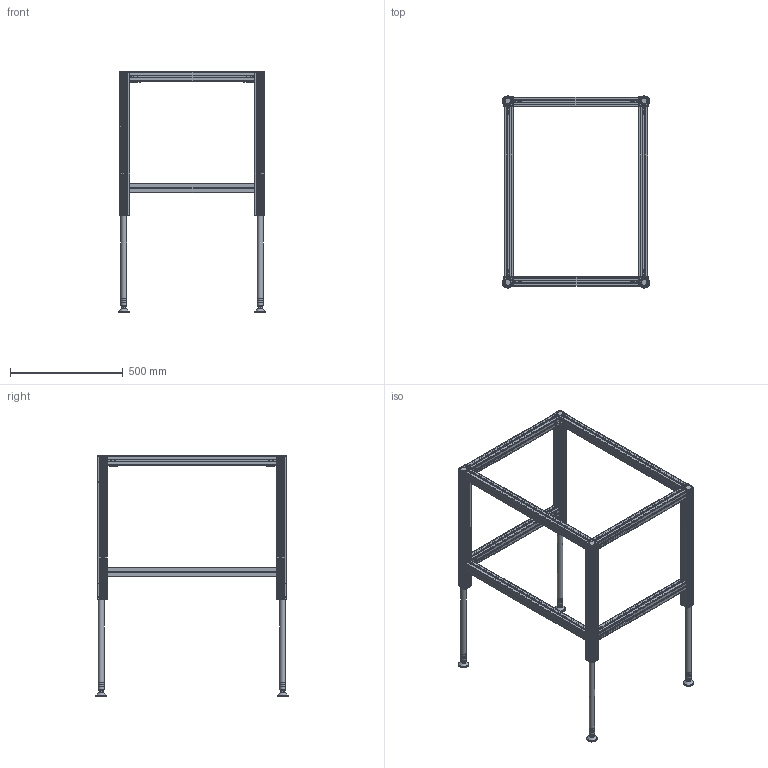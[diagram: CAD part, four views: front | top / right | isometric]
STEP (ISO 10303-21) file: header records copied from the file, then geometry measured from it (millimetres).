
FILE_DESCRIPTION(/* description */ ('Unknown'),/* implementation_level */ '2;1');
FILE_NAME(/* name */ '108.00404_ausgefahren',/* time_stamp */ '2019-08-07T13:55:29+02:00',/* author */ ('Unknown'),/* organization */ ('Unknown'),/* preprocessor_version */ 'ST-DEVELOPER v16.7',/* originating_system */ 'DEX',/* authorisation */ $);
FILE_SCHEMA (('AUTOMOTIVE_DESIGN {1 0 10303 214 3 1 1}'));
Length unit declared in the file: millimetre
Products named in the file (34): 108.00404; 115.00101; 119.00191; 142.00210; 115.00100; 119.00190; 306.00414_oa_0; 142.00014; 119.00224; 122.00005; 142.00020; 113.00002_70mm; 124.00125; 128.00040; 106.00404_oa_1; 107.00404_oa_2; 115.00007_oa_3; 123.00104; 125.00051; 306.00414_oa_4; 106.00404_oa_5; 107.00404_oa_6; 115.00007_oa_7; 306.00414_oa_8; 106.00404_oa_9; 107.00404_oa_10; 115.00007_oa_11; 306.00414_oa_12; 106.00404_oa_13; 107.00404_oa_14; 115.00007_oa_15; 113.00006; 113.00052_ohne Mutter; Mutter M10
Assembly tree (87 placements, depth 5):
  108.00404
    115.00101  x3
      119.00191
      142.00210
    115.00100  x4
      119.00190
      142.00210
    306.00414_oa_0
      142.00014  x2
      119.00224
      122.00005
      142.00020  x4
      113.00002_70mm
      124.00125
      128.00040
      106.00404_oa_1
        107.00404_oa_2
          115.00007_oa_3
        123.00104
        125.00051
    306.00414_oa_4
      142.00014  x2
      119.00224
      122.00005
      142.00020  x4
      113.00002_70mm
      124.00125
      128.00040
      106.00404_oa_5
        107.00404_oa_6
          115.00007_oa_7
        123.00104
        125.00051
    306.00414_oa_8
      142.00014  x2
      119.00224
      122.00005
      142.00020  x4
      113.00002_70mm
      124.00125
      128.00040
      106.00404_oa_9
        107.00404_oa_10
          115.00007_oa_11
        123.00104
        125.00051
    306.00414_oa_12
      142.00014  x2
      119.00224
      122.00005
      142.00020  x4
      113.00002_70mm
      124.00125
      128.00040
      106.00404_oa_13
        107.00404_oa_14
          115.00007_oa_15
        123.00104
        125.00051
    113.00006  x4
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Bounding box: 650.82 x 850.82 x 1063 mm (x, y, z)
Volume: 5741044 mm3; surface area: 3835840.7 mm2
Topology: 95 solids, 95 shells, 5997 faces, 16818 edges, 10833 vertices
Faces by surface type: plane 2644, cylinder 2607, cone 254, torus 190, bspline 176, sphere 126
Full cylindrical faces by diameter (mm): 2.2 x4, 2.5 x48, 3 x16, 4 x40, 5 x28, 6.647 x4, 7.8 x14, 8 x4, 8.376 x12, 9.5 x4, 10 x8, 11.3 x14, 11.5 x18, 12 x14, 12.2 x14, 13.5 x14, 13.7 x21, 15 x4, 16 x4, 17.3 x4, 18 x28, 18.1 x14, 19 x8, 20.8 x12, 21 x4, 24 x4, 25 x20, 29 x4, 30 x8, 35 x4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
Entity records: 48695 total; most frequent: CARTESIAN_POINT 10438, ORIENTED_EDGE 7762, DIRECTION 7718, EDGE_CURVE 3881, AXIS2_PLACEMENT_3D 2771, VERTEX_POINT 2576, LINE 2176, VECTOR 2176
